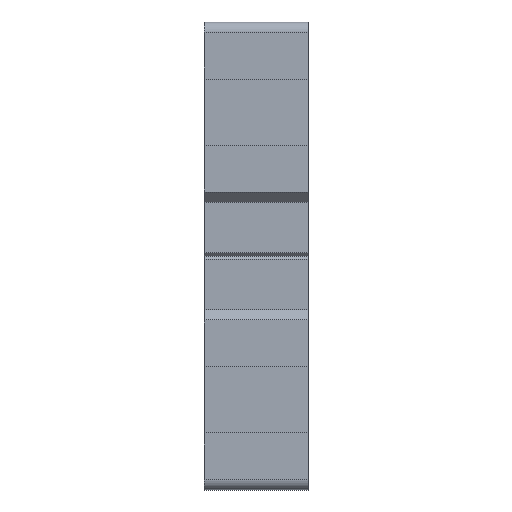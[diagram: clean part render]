
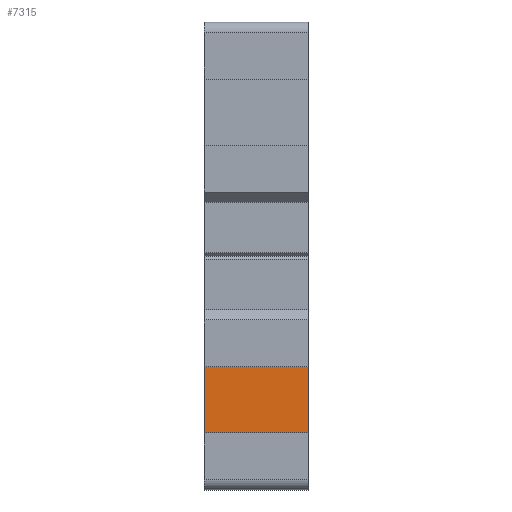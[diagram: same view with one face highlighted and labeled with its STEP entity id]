
A CAD part, left-side view. The second image highlights one B-rep face of the part: STEP entity #7315.
In plain terms, the highlighted planar face has unit normal (-1, 0, 0).
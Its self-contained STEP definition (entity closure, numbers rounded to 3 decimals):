
#469=DIRECTION('',(0.,0.,-1.));
#470=VECTOR('',#469,6.35);
#471=CARTESIAN_POINT('',(-22.3,0.,-10.65));
#472=LINE('',#471,#470);
#1653=DIRECTION('',(0.,0.,-1.));
#1654=VECTOR('',#1653,6.35);
#1655=CARTESIAN_POINT('',(-22.3,10.,-10.65));
#1656=LINE('',#1655,#1654);
#2691=DIRECTION('',(0.,1.,0.));
#2692=VECTOR('',#2691,10.);
#2693=CARTESIAN_POINT('',(-22.3,0.,-10.65));
#2694=LINE('',#2693,#2692);
#2695=DIRECTION('',(0.,1.,0.));
#2696=VECTOR('',#2695,10.);
#2697=CARTESIAN_POINT('',(-22.3,0.,-17.));
#2698=LINE('',#2697,#2696);
#3610=CARTESIAN_POINT('',(-22.3,0.,-10.65));
#3612=VERTEX_POINT('',#3610);
#3613=CARTESIAN_POINT('',(-22.3,0.,-17.));
#3614=VERTEX_POINT('',#3613);
#3658=CARTESIAN_POINT('',(-22.3,10.,-10.65));
#3660=VERTEX_POINT('',#3658);
#3661=CARTESIAN_POINT('',(-22.3,10.,-17.));
#3662=VERTEX_POINT('',#3661);
#7303=CARTESIAN_POINT('',(-22.3,0.,-10.65));
#7304=DIRECTION('',(1.,0.,0.));
#7305=DIRECTION('',(0.,0.,-1.));
#7306=AXIS2_PLACEMENT_3D('',#7303,#7304,#7305);
#7307=PLANE('',#7306);
#7308=ORIENTED_EDGE('',*,*,#3776,.T.);
#7310=ORIENTED_EDGE('',*,*,#7309,.T.);
#7311=ORIENTED_EDGE('',*,*,#4638,.F.);
#7312=ORIENTED_EDGE('',*,*,#7296,.F.);
#7313=EDGE_LOOP('',(#7308,#7310,#7311,#7312));
#7314=FACE_OUTER_BOUND('',#7313,.F.);
#7315=ADVANCED_FACE('',(#7314),#7307,.F.);
#3776=EDGE_CURVE('',#3612,#3614,#472,.T.);
#4638=EDGE_CURVE('',#3660,#3662,#1656,.T.);
#7296=EDGE_CURVE('',#3612,#3660,#2694,.T.);
#7309=EDGE_CURVE('',#3614,#3662,#2698,.T.);
